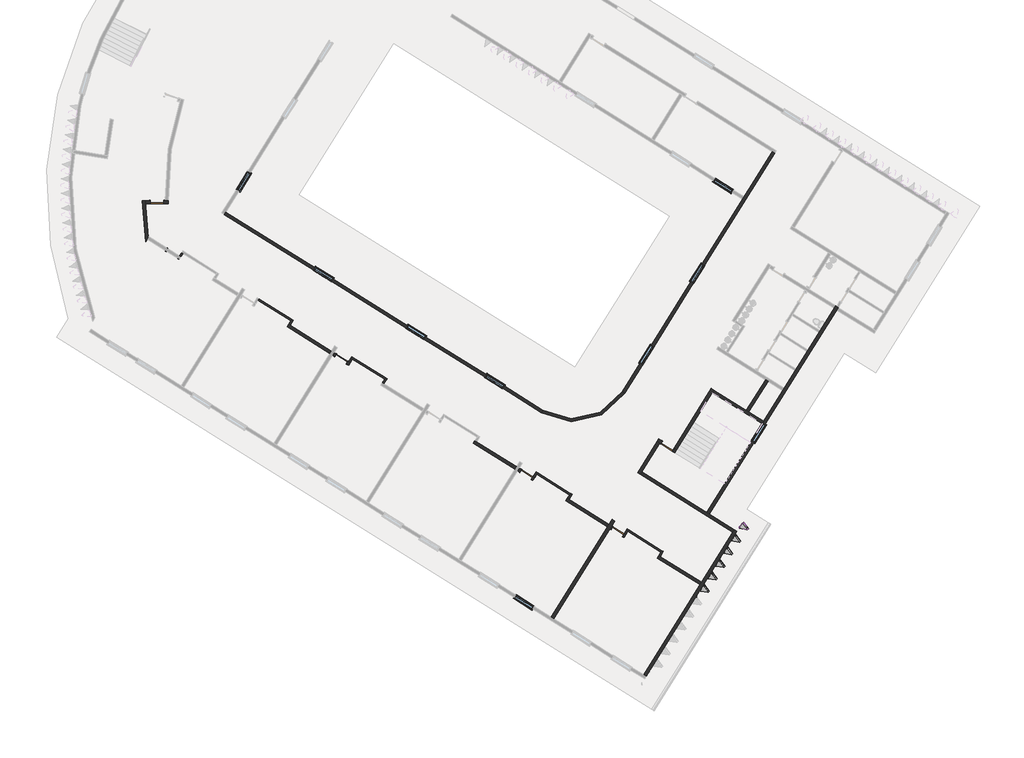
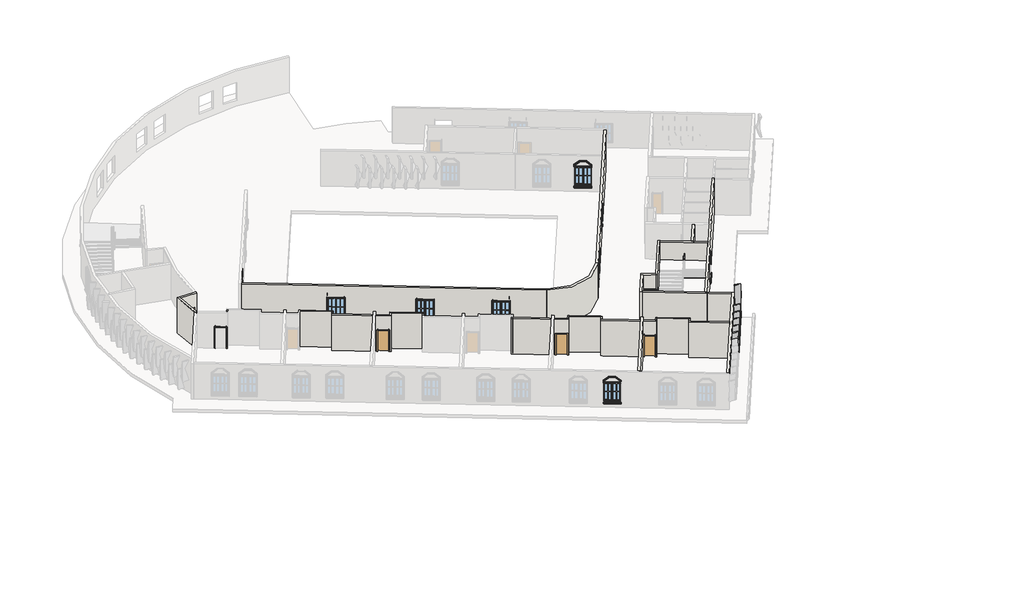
# One storey, part 2 of 7: 30 walls, 12 plates, 9 windows, 6 doors.
"""IFC4 building model written with IfcOpenShell, lengths in millimetres."""

from ifc_helpers import new_model, si_unit, point, frame, frame_2d, origin, place, context, project, spatial, polyline, circle_curve, trimmed, segment, composite_curve, outline, extrude, faceted_brep, transform, mapped, element, save
from ifc_brep_helpers import plane_surface, cylinder_surface, revolved_surface, advanced_brep
from components import m_single_flush_0915_x_2134mm_6a9e8738, m_single_flush_0915_x_2134mm_727434cd, plate_91021fb5, m_window_casement_double_1400_x_1800mm_877d247a, m_window_casement_double_1400_x_1800mm_eb8f2d9a

model = new_model("IFC4")

# Units and contexts
model_context = context("Model", 3, world=origin())
ifc_project = project(units=[si_unit("LENGTHUNIT", "METRE", prefix="MILLI")], contexts=[model_context])

# Site, building, storey
site = spatial("IfcSite", under=ifc_project)
building = spatial("IfcBuilding", under=site)
storey = spatial("IfcBuildingStorey", under=building, Name="\u200fطبقه اول", Elevation=3600.0)

# Doors
placement = place(None, origin())
m_single_flush_0915_x_2134mm_shape = m_single_flush_0915_x_2134mm_6a9e8738(model_context)
element("IfcDoor", 1, ObjectType="M_Single-Flush : 0915 x 2134mm", at=placement, inside=storey, context=model_context, shape_type="MappedRepresentation", body=[
    mapped(m_single_flush_0915_x_2134mm_shape, transform((10135.2196896, -38759.2584102, 3600.0), x_axis=(0.8480480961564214, -0.5299192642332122, 0.0), y_axis=(0.5299192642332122, 0.8480480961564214, 0.0), z_axis=(0.0, 0.0, 1.0))),
])
element("IfcDoor", 2, ObjectType="M_Single-Flush : 0915 x 2134mm", at=placement, inside=storey, context=model_context, shape_type="MappedRepresentation", body=[
    mapped(m_single_flush_0915_x_2134mm_shape, transform((9053.2639428, -35261.0209227, 3600.0), x_axis=(-1.0, 0.0, 0.0), y_axis=(0.0, -1.0, 0.0), z_axis=(0.0, 0.0, 1.0))),
])
element("IfcDoor", 3, ObjectType="M_Single-Flush : 0915 x 2134mm", at=placement, inside=storey, context=model_context, shape_type="MappedRepresentation", body=[
    mapped(m_single_flush_0915_x_2134mm_shape, transform((43670.1080734, -51814.6724607, 3600.0), x_axis=(-0.8480480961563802, 0.5299192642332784, 0.0), y_axis=(-0.5299192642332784, -0.8480480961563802, 0.0), z_axis=(0.0, 0.0, 1.0))),
])
m_single_flush_0915_x_2134mm_2_shape = m_single_flush_0915_x_2134mm_727434cd(model_context)
element("IfcDoor", 4, ObjectType="M_Single-Flush : 0915 x 2134mm", at=placement, inside=storey, context=model_context, shape_type="MappedRepresentation", body=[
    mapped(m_single_flush_0915_x_2134mm_2_shape, transform((34111.4094095, -53741.2445417, 3600.0), x_axis=(-0.8480480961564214, 0.5299192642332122, 0.0), y_axis=(-0.5299192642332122, -0.8480480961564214, 0.0), z_axis=(0.0, 0.0, 1.0))),
])
element("IfcDoor", 5, ObjectType="M_Single-Flush : 0915 x 2134mm", at=placement, inside=storey, context=model_context, shape_type="MappedRepresentation", body=[
    mapped(m_single_flush_0915_x_2134mm_2_shape, transform((40302.1605114, -57609.6551706, 3600.0), x_axis=(-0.8480480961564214, 0.5299192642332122, 0.0), y_axis=(-0.5299192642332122, -0.8480480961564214, 0.0), z_axis=(0.0, 0.0, 1.0))),
])
element("IfcDoor", 6, ObjectType="M_Single-Flush : 0915 x 2134mm", at=placement, inside=storey, context=model_context, shape_type="MappedRepresentation", body=[
    mapped(m_single_flush_0915_x_2134mm_2_shape, transform((21561.1176268, -45898.9518492, 3600.0), x_axis=(-0.8480480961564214, 0.5299192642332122, 0.0), y_axis=(-0.5299192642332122, -0.8480480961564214, 0.0), z_axis=(0.0, 0.0, 1.0))),
])

# Plates
plate_shape = plate_91021fb5(model_context)
element("IfcPlate", 7, ObjectType="مدل پارامتریک کصینوس دار : مدل پارامتریک کصینوس دار", at=placement, inside=storey, context=model_context, shape_type="MappedRepresentation", body=[
    mapped(plate_shape, transform((45098.3502083, -63847.1990302, 1755.2367897), x_axis=(0.0, 0.0, 1.0), y_axis=(0.5299192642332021, 0.8480480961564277, 0.0), z_axis=(-0.8480480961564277, 0.5299192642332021, 0.0))),
])
element("IfcPlate", 8, ObjectType="مدل پارامتریک کصینوس دار : مدل پارامتریک کصینوس دار", at=placement, inside=storey, context=model_context, shape_type="MappedRepresentation", body=[
    mapped(plate_shape, transform((45363.3098404, -63423.1749822, 755.2367897), x_axis=(0.0, 0.0, 1.0), y_axis=(0.5299192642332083, 0.8480480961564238, 0.0), z_axis=(-0.8480480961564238, 0.5299192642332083, 0.0))),
])
element("IfcPlate", 9, ObjectType="مدل پارامتریک کصینوس دار : مدل پارامتریک کصینوس دار", at=placement, inside=storey, context=model_context, shape_type="MappedRepresentation", body=[
    mapped(plate_shape, transform((45628.2694725, -62999.1509341, 1755.2367897), x_axis=(0.0, 0.0, 1.0), y_axis=(0.5299192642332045, 0.8480480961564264, 0.0), z_axis=(-0.8480480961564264, 0.5299192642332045, 0.0))),
])
element("IfcPlate", 10, ObjectType="مدل پارامتریک کصینوس دار : مدل پارامتریک کصینوس دار", at=placement, inside=storey, context=model_context, shape_type="MappedRepresentation", body=[
    mapped(plate_shape, transform((45893.2291046, -62575.126886, 755.2367897), x_axis=(0.0, 0.0, 1.0), y_axis=(0.5299192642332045, 0.8480480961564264, 0.0), z_axis=(-0.8480480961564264, 0.5299192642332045, 0.0))),
])
element("IfcPlate", 11, ObjectType="مدل پارامتریک کصینوس دار : مدل پارامتریک کصینوس دار", at=placement, inside=storey, context=model_context, shape_type="MappedRepresentation", body=[
    mapped(plate_shape, transform((46158.1887368, -62151.1028379, 1755.2367897), x_axis=(0.0, 0.0, 1.0), y_axis=(0.5299192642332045, 0.8480480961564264, 0.0), z_axis=(-0.8480480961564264, 0.5299192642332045, 0.0))),
])
element("IfcPlate", 12, ObjectType="مدل پارامتریک کصینوس دار : مدل پارامتریک کصینوس دار", at=placement, inside=storey, context=model_context, shape_type="MappedRepresentation", body=[
    mapped(plate_shape, transform((46423.1483689, -61727.0787898, 755.2367897), x_axis=(0.0, 0.0, 1.0), y_axis=(0.5299192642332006, 0.8480480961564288, 0.0), z_axis=(-0.8480480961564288, 0.5299192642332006, 0.0))),
])
element("IfcPlate", 13, ObjectType="مدل پارامتریک کصینوس دار : مدل پارامتریک کصینوس دار", at=placement, inside=storey, context=model_context, shape_type="MappedRepresentation", body=[
    mapped(plate_shape, transform((46688.108001, -61303.0547418, 1755.2367897), x_axis=(0.0, 0.0, 1.0), y_axis=(0.5299192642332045, 0.8480480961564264, 0.0), z_axis=(-0.8480480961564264, 0.5299192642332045, 0.0))),
])
element("IfcPlate", 14, ObjectType="مدل پارامتریک کصینوس دار : مدل پارامتریک کصینوس دار", at=placement, inside=storey, context=model_context, shape_type="MappedRepresentation", body=[
    mapped(plate_shape, transform((46953.0676331, -60879.0306937, 755.2367897), x_axis=(0.0, 0.0, 1.0), y_axis=(0.5299192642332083, 0.8480480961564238, 0.0), z_axis=(-0.8480480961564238, 0.5299192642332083, 0.0))),
])
element("IfcPlate", 15, ObjectType="مدل پارامتریک کصینوس دار : مدل پارامتریک کصینوس دار", at=placement, inside=storey, context=model_context, shape_type="MappedRepresentation", body=[
    mapped(plate_shape, transform((47218.0272652, -60455.0066456, 1755.2367897), x_axis=(0.0, 0.0, 1.0), y_axis=(0.5299192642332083, 0.8480480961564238, 0.0), z_axis=(-0.8480480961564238, 0.5299192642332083, 0.0))),
])
element("IfcPlate", 16, ObjectType="مدل پارامتریک کصینوس دار : مدل پارامتریک کصینوس دار", at=placement, inside=storey, context=model_context, shape_type="MappedRepresentation", body=[
    mapped(plate_shape, transform((47482.9868973, -60030.9825975, 755.2367897), x_axis=(0.0, 0.0, 1.0), y_axis=(0.5299192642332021, 0.8480480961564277, 0.0), z_axis=(-0.8480480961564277, 0.5299192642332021, 0.0))),
])
element("IfcPlate", 17, ObjectType="مدل پارامتریک کصینوس دار : مدل پارامتریک کصینوس دار", at=placement, inside=storey, context=model_context, shape_type="MappedRepresentation", body=[
    mapped(plate_shape, transform((48012.9061616, -59182.9345014, 755.2367897), x_axis=(0.0, 0.0, 1.0), y_axis=(0.529919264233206, 0.8480480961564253, 0.0), z_axis=(-0.8480480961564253, 0.529919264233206, 0.0))),
])
element("IfcPlate", 18, ObjectType="مدل پارامتریک کصینوس دار : مدل پارامتریک کصینوس دار", at=placement, inside=storey, context=model_context, shape_type="MappedRepresentation", body=[
    mapped(plate_shape, transform((48012.9061616, -59182.9345014, 2755.2367897), x_axis=(0.0, 0.0, 1.0), y_axis=(0.5299192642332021, 0.8480480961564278, 0.0), z_axis=(-0.8480480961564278, 0.5299192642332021, 0.0))),
])

# Walls
element("IfcWall", 19, ObjectType="Generic - 200mm", at=placement, inside=storey, context=model_context, shape_type="AdvancedBrep", body=[
    advanced_brep(
    [(8461.2110478, -37692.4043817, 7200.0), (8445.8385172, -37585.6864525, 7200.0), (8250.8527294, -35361.0398638, 7200.0), (8244.9320284, -35161.0209227, 7200.0), (8044.8709061, -35161.0209227, 7200.0), (8252.7688162, -37648.5519238, 7200.0), (8298.5516912, -37952.7137665, 7200.0), (8398.8638738, -37792.1807172, 7200.0), (8461.2110478, -37692.4043817, 3600.0), (8398.8638738, -37792.1807172, 3600.0), (8298.5516912, -37952.7137665, 3600.0), (8252.7688162, -37648.5519238, 3600.0), (8044.8709061, -35161.0209227, 3600.0), (8244.9320284, -35161.0209227, 3600.0), (8250.8527294, -35361.0398638, 3600.0), (8445.8385172, -37585.6864525, 3600.0)],
    [
        (0, 1, circle_curve(frame((29284.4488792, -34638.3554793, 7200.0), z_axis=(0.0, 0.0, -1.0), x_axis=(1.0, 0.0, 0.0)), 21046.0078989)),
        (1, 2, circle_curve(frame((29284.4488792, -34638.3554793, 7200.0), z_axis=(0.0, 0.0, -1.0), x_axis=(1.0, 0.0, 0.0)), 21046.0077374)),
        (2, 3, circle_curve(frame((29284.4488792, -34638.3554793, 7200.0), z_axis=(0.0, 0.0, -1.0), x_axis=(1.0, 0.0, 0.0)), 21046.0076905)),
        (3, 4),
        (4, 5, circle_curve(frame((29284.4488792, -34638.3554793, 7200.0), z_axis=(0.0, 0.0, 1.0), x_axis=(1.0, 0.0, 0.0)), 21246.0078989)),
        (5, 6, circle_curve(frame((29284.4488792, -34638.3554793, 7200.0), z_axis=(0.0, 0.0, 1.0), x_axis=(1.0, 0.0, 0.0)), 21246.0078345)),
        (6, 7),
        (7, 0),
        (8, 9),
        (9, 10),
        (10, 11, circle_curve(frame((29284.4488792, -34638.3554793, 3600.0), z_axis=(0.0, 0.0, -1.0), x_axis=(1.0, 0.0, 0.0)), 21246.0078989)),
        (11, 12, circle_curve(frame((29284.4488792, -34638.3554793, 3600.0), z_axis=(0.0, 0.0, -1.0), x_axis=(1.0, 0.0, 0.0)), 21246.0078345)),
        (12, 13),
        (13, 14, circle_curve(frame((29284.4488792, -34638.3554793, 3600.0), z_axis=(0.0, 0.0, 1.0), x_axis=(1.0, 0.0, 0.0)), 21046.0078989)),
        (14, 15, circle_curve(frame((29284.4488792, -34638.3554793, 3600.0), z_axis=(0.0, 0.0, 1.0), x_axis=(1.0, 0.0, 0.0)), 21046.0076905)),
        (15, 8, circle_curve(frame((29284.4488792, -34638.3554793, 3600.0), z_axis=(0.0, 0.0, 1.0), x_axis=(1.0, 0.0, 0.0)), 21046.0077374)),
        (0, 8),
        (13, 3),
        (4, 12),
        (10, 6),
    ],
    [
        plane_surface(frame((50330.456778, -34638.3554793, 7200.0), z_axis=(0.0, 0.0, 1.0), x_axis=(0.0, -1.0, 0.0))),
        plane_surface(frame((50330.456778, -34638.3554793, 3600.0), z_axis=(0.0, 0.0, -1.0), x_axis=(0.0, 1.0, 0.0))),
        revolved_surface(polyline([(50330.4567781, -34638.3554793, 3600.0), (50330.4567781, -34638.3554793, 7200.0)]), (29284.4488792, -34638.3554793, 3600.0), (0.0, 0.0, -1.0)),
        cylinder_surface(frame((29284.4488792, -34638.3554793, 3600.0), z_axis=(0.0, 0.0, 1.0), x_axis=(1.0, 0.0, 0.0)), 21246.0078989),
        plane_surface(frame((8250.8518702, -35161.0209227, 3600.0), z_axis=(0.0, 1.0, 0.0), x_axis=(-1.0, 0.0, 0.0))),
        plane_surface(frame((4583.4451713, -43898.1270095, 3600.0), z_axis=(0.8480480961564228, -0.5299192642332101, 0.0), x_axis=(0.5299192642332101, 0.8480480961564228, 0.0))),
    ],
    [
        (0, [[1, 2, 3, 4, 5, 6, 7, 8]]),
        (1, [[9, 10, 11, 12, 13, 14, 15, 16]]),
        (2, [[-3, -2, -1, 17, -16, -15, -14, 18]]),
        (3, [[-6, -5, 19, -12, -11, 20]]),
        (4, [[-4, -18, -13, -19]]),
        (5, [[-8, -7, -20, -10, -9, -17]]),
    ],
),
])
element("IfcWall", 20, ObjectType="Generic - 200mm", at=placement, inside=storey, context=model_context, shape_type="AdvancedBrep", body=[
    advanced_brep(
    [(8250.8518702, -35361.0209227, 3600.0), (8595.7639428, -35361.0209227, 3600.0), (8595.7639428, -35361.0209227, 5734.0), (9510.7639428, -35361.0209227, 5734.0), (9510.7639428, -35361.0209227, 3600.0), (9814.2693312, -35361.0209227, 3600.0), (9814.2693312, -35361.0209227, 7200.0), (8250.8518702, -35361.0209227, 7200.0), (8595.7639428, -35161.0209227, 5734.0), (8595.7639428, -35161.0209227, 3600.0), (8244.9320284, -35161.0209227, 3600.0), (8244.9320284, -35161.0209227, 7200.0), (9607.803018, -35161.0209227, 7200.0), (9807.874288, -35161.0209227, 7200.0), (9807.874288, -35161.0209227, 3600.0), (9607.803018, -35161.0209227, 3600.0), (9510.7639428, -35161.0209227, 3600.0), (9510.7639428, -35161.0209227, 5734.0)],
    [
        (0, 1),
        (1, 2),
        (2, 3),
        (3, 4),
        (4, 5),
        (5, 6),
        (6, 7),
        (7, 0),
        (8, 9),
        (9, 10),
        (10, 11),
        (11, 12),
        (12, 13),
        (13, 14),
        (14, 15),
        (15, 16),
        (16, 17),
        (17, 8),
        (9, 1),
        (0, 10, circle_curve(frame((29284.4488792, -34638.3554793, 3600.0), z_axis=(0.0, 0.0, -1.0), x_axis=(1.0, 0.0, 0.0)), 21046.0078989)),
        (14, 5, circle_curve(frame((29284.4488792, -34638.3554793, 3600.0), z_axis=(0.0, 0.0, 1.0), x_axis=(1.0, 0.0, 0.0)), 19483.5863478)),
        (4, 16),
        (6, 13, circle_curve(frame((29284.4488792, -34638.3554793, 7200.0), z_axis=(0.0, 0.0, -1.0), x_axis=(1.0, 0.0, 0.0)), 19483.5863478)),
        (11, 7, circle_curve(frame((29284.4488792, -34638.3554793, 7200.0), z_axis=(0.0, 0.0, 1.0), x_axis=(1.0, 0.0, 0.0)), 21046.0078989)),
        (8, 2),
        (17, 3),
    ],
    [
        plane_surface(frame((8250.8518702, -35361.0209227, 3600.0), z_axis=(0.0, -1.0, 0.0), x_axis=(1.0, 0.0, 0.0))),
        plane_surface(frame((8250.8518702, -35161.0209227, 3600.0), z_axis=(0.0, 1.0, 0.0), x_axis=(-1.0, 0.0, 0.0))),
        plane_surface(frame((8147.6104731, -35361.0209227, 3600.0), z_axis=(0.0, 0.0, -1.0), x_axis=(0.0, 1.0, 0.0))),
        plane_surface(frame((9710.7639428, -35361.0209227, 7200.0), z_axis=(0.0, 0.0, 1.0), x_axis=(0.0, 1.0, 0.0))),
        revolved_surface(polyline([(48768.035227, -34638.3554793, 3600.0), (48768.035227, -34638.3554793, 7200.0)]), (29284.4488792, -34638.3554793, 3600.0), (0.0, 0.0, -1.0)),
        cylinder_surface(frame((29284.4488792, -34638.3554793, 3600.0), z_axis=(0.0, 0.0, -1.0), x_axis=(1.0, 0.0, 0.0)), 21046.0078989),
        plane_surface(frame((8595.7639428, -35361.0209227, 3600.0), z_axis=(1.0, 0.0, 0.0), x_axis=(0.0, 1.0, 0.0))),
        plane_surface(frame((8595.7639428, -35361.0209227, 5734.0), z_axis=(0.0, 0.0, -1.0), x_axis=(0.0, 1.0, 0.0))),
        plane_surface(frame((9510.7639428, -35361.0209227, 5734.0), z_axis=(-1.0, 0.0, 0.0), x_axis=(0.0, 1.0, 0.0))),
    ],
    [
        (0, [[1, 2, 3, 4, 5, 6, 7, 8]]),
        (1, [[9, 10, 11, 12, 13, 14, 15, 16, 17, 18]]),
        (2, [[-10, 19, -1, 20]]),
        (2, [[-16, -15, 21, -5, 22]]),
        (3, [[-7, 23, -13, -12, 24]]),
        (4, [[-6, -21, -14, -23]]),
        (5, [[-8, -24, -11, -20]]),
        (6, [[-2, -19, -9, 25]]),
        (7, [[-3, -25, -18, 26]]),
        (8, [[-4, -26, -17, -22]]),
    ],
),
])
element("IfcWall", 21, ObjectType="Generic - 200mm", at=placement, inside=storey, context=model_context, shape_type="SweptSolid", body=[
    extrude(outline(polyline([(35791.6151098, -63399.1559333), (39924.9853708, -56784.3807832), (40094.5949901, -56890.3646361), (35961.2247291, -63505.1397861), (35791.6151098, -63399.1559333)])), frame((0.0, 0.0, 3600.0), z_axis=(0.0, 0.0, 1.0), x_axis=(1.0, 0.0, 0.0)), (0.0, 0.0, 1.0), 3600.0),
])
element("IfcWall", 22, ObjectType="Generic - 200mm", at=placement, inside=storey, context=model_context, shape_type="Brep", body=[
    faceted_brep([(42236.7806406, -67426.5423414, 3600.0), (48383.4012778, -57589.8930988, 3600.0), (48383.4012778, -57589.8930988, 7200.0), (42236.7806406, -67426.5423414, 7200.0), (42067.1710214, -67320.5584886, 3600.0), (42067.1710214, -67320.5584886, 7200.0), (45882.5897239, -61214.6121963, 7200.0), (45988.5735767, -61045.002577, 7200.0), (48107.8078058, -57653.5188652, 7200.0), (48213.7916586, -57483.9092459, 7200.0), (48213.7916586, -57483.9092459, 3600.0), (48107.8078058, -57653.5188652, 3600.0), (45988.5735767, -61045.002577, 3600.0), (45882.5897239, -61214.6121963, 3600.0)], [[[0, 1, 2, 3]], [[4, 5, 6, 7, 8, 9, 10, 11, 12, 13]], [[1, 0, 4, 13, 12, 11, 10]], [[3, 2, 9, 8, 7, 6, 5]], [[2, 1, 10, 9]], [[0, 3, 5, 4]]]),
])
element("IfcWall", 23, ObjectType="Generic - 200mm", at=placement, inside=storey, context=model_context, shape_type="Brep", body=[
    faceted_brep([(41818.4737323, -53723.5067587, 3600.0), (48107.8078058, -57653.5188652, 3600.0), (48107.8078058, -57653.5188652, 7200.0), (41818.4737323, -53723.5067587, 7200.0), (41924.4575852, -53553.8971395, 3600.0), (41924.4575852, -53553.8971395, 7200.0), (46334.3076852, -56309.4773135, 7200.0), (46503.9173044, -56415.4611664, 7200.0), (48213.7916586, -57483.9092459, 7200.0), (48213.7916586, -57483.9092459, 3600.0), (46503.9173044, -56415.4611664, 3600.0), (46334.3076852, -56309.4773135, 3600.0)], [[[0, 1, 2, 3]], [[4, 5, 6, 7, 8, 9, 10, 11]], [[1, 0, 4, 11, 10, 9]], [[3, 2, 8, 7, 6, 5]], [[2, 1, 9, 8]], [[0, 3, 5, 4]]]),
])
element("IfcWall", 24, ObjectType="Generic - 200mm", at=placement, inside=storey, context=model_context, shape_type="Brep", body=[
    faceted_brep([(46503.9173044, -56415.4611664, 3600.0), (55149.463009, -42579.6958529, 3600.0), (55255.4468618, -42410.0862337, 3600.0), (55255.4468618, -42410.0862337, 7200.0), (55149.463009, -42579.6958529, 7200.0), (46503.9173044, -56415.4611664, 7200.0), (49547.1565475, -51545.2603255, 4200.0), (49547.1565475, -51545.2603255, 6000.0), (50289.0435174, -50357.9929909, 6000.0), (50289.0435174, -50357.9929909, 4200.0), (55085.8372426, -42304.1023809, 3600.0), (54979.8533898, -42473.7120001, 3600.0), (54025.9987141, -44000.1985732, 3600.0), (53960.2887254, -44105.3565371, 3600.0), (53218.4017555, -45292.6238717, 3600.0), (53152.6917667, -45397.7818356, 3600.0), (52410.8047968, -46585.0491702, 3600.0), (52345.094808, -46690.2071342, 3600.0), (51603.2078381, -47877.4744688, 3600.0), (51497.2239852, -48047.084088, 3600.0), (50202.7183141, -50118.7262116, 3600.0), (50096.7344612, -50288.3358308, 3600.0), (46334.3076852, -56309.4773135, 3600.0), (46334.3076852, -56309.4773135, 7200.0), (50096.7344612, -50288.3358308, 7200.0), (50202.7183141, -50118.7262116, 7200.0), (51497.2239852, -48047.084088, 7200.0), (51603.2078381, -47877.4744688, 7200.0), (52345.094808, -46690.2071342, 7200.0), (52410.8047968, -46585.0491702, 7200.0), (53152.6917667, -45397.7818356, 7200.0), (53218.4017555, -45292.6238717, 7200.0), (53960.2887254, -44105.3565371, 7200.0), (54025.9987141, -44000.1985732, 7200.0), (54979.8533898, -42473.7120001, 7200.0), (55085.8372426, -42304.1023809, 7200.0), (49377.5469283, -51439.2764726, 6000.0), (49377.5469283, -51439.2764726, 4200.0), (50119.4338982, -50252.009138, 4200.0), (50119.4338982, -50252.009138, 6000.0), (55150.2888979, -42344.3762449, 3600.0), (55150.2888979, -42344.3762449, 7200.0)], [[[0, 1, 2, 3, 4, 5], [6, 7, 8, 9]], [[10, 11, 12, 13, 14, 15, 16, 17, 18, 19, 20, 21, 22, 23, 24, 25, 26, 27, 28, 29, 30, 31, 32, 33, 34, 35], [36, 37, 38, 39]], [[2, 1, 0, 22, 21, 20, 19, 18, 17, 16, 15, 14, 13, 12, 11, 10, 40]], [[5, 4, 3, 41, 35, 34, 33, 32, 31, 30, 29, 28, 27, 26, 25, 24, 23]], [[0, 5, 23, 22]], [[3, 2, 40, 10, 35, 41]], [[37, 36, 7, 6]], [[38, 37, 6, 9]], [[39, 38, 9, 8]], [[36, 39, 8, 7]]]),
])
element("IfcWall", 25, ObjectType="Generic - 200mm", at=placement, inside=storey, context=model_context, shape_type="Brep", body=[
    faceted_brep([(42973.6622737, -51497.4026655, 3600.0), (41648.8641131, -53617.5229059, 3600.0), (41648.8641131, -53617.5229059, 7200.0), (42973.6622737, -51497.4026655, 7200.0), (43143.2718929, -51603.3865184, 3600.0), (43143.2718929, -51603.3865184, 7200.0), (41924.4575852, -53553.8971395, 7200.0), (41818.4737323, -53723.5067587, 7200.0), (41818.4737323, -53723.5067587, 3600.0), (41924.4575852, -53553.8971395, 3600.0)], [[[0, 1, 2, 3]], [[4, 5, 6, 7, 8, 9]], [[1, 0, 4, 9, 8]], [[3, 2, 7, 6, 5]], [[0, 3, 5, 4]], [[2, 1, 8, 7]]]),
])
element("IfcWall", 26, ObjectType="Generic - 200mm", at=placement, inside=storey, context=model_context, shape_type="Brep", body=[
    faceted_brep([(44005.0981509, -52141.9153337, 7200.0), (43143.2718929, -51603.3865184, 7200.0), (42973.6622737, -51497.4026655, 7200.0), (42973.6622737, -51497.4026655, 3600.0), (43143.2718929, -51603.3865184, 3600.0), (43229.134143, -51657.0392069, 3600.0), (43229.134143, -51657.0392069, 5734.0), (44005.0981509, -52141.9153337, 5734.0), (43079.6461265, -51327.7930463, 7200.0), (44111.0820038, -51972.3057144, 7200.0), (44111.0820038, -51972.3057144, 5734.0), (43335.1179958, -51487.4295877, 5734.0), (43335.1179958, -51487.4295877, 3600.0), (43079.6461265, -51327.7930463, 3600.0)], [[[0, 1, 2, 3, 4, 5, 6, 7]], [[8, 9, 10, 11, 12, 13]], [[3, 13, 12, 5, 4]], [[2, 1, 0, 9, 8]], [[3, 2, 8, 13]], [[9, 0, 7, 10]], [[11, 6, 5, 12]], [[6, 11, 10, 7]]]),
])
element("IfcWall", 27, ObjectType="Generic - 200mm", at=placement, inside=storey, context=model_context, shape_type="Brep", body=[
    faceted_brep([(44005.0981509, -52141.9153337, 7200.0), (44111.0820038, -51972.3057144, 7200.0), (46654.6944721, -47901.6748529, 7200.0), (46654.6944721, -47901.6748529, 3600.0), (44111.0820038, -51972.3057144, 3600.0), (44005.0981509, -52141.9153337, 3600.0), (44005.0981509, -52141.9153337, 5734.0), (44174.7077702, -52247.8991865, 3600.0), (46718.3202385, -48177.268325, 3600.0), (46824.3040913, -48007.6587057, 3600.0), (46824.3040913, -48007.6587057, 7200.0), (46718.3202385, -48177.268325, 7200.0), (44174.7077702, -52247.8991865, 7200.0)], [[[0, 1, 2, 3, 4, 5, 6]], [[7, 8, 9, 10, 11, 12]], [[9, 8, 7, 5, 4, 3]], [[2, 1, 0, 12, 11, 10]], [[5, 7, 12, 0, 6]], [[3, 2, 10, 9]]]),
])
element("IfcWall", 28, ObjectType="Generic - 200mm", at=placement, inside=storey, context=model_context, shape_type="Brep", body=[
    faceted_brep([(46718.3202385, -48177.268325, 3600.0), (50096.7344612, -50288.3358308, 3600.0), (50096.7344612, -50288.3358308, 7200.0), (46718.3202385, -48177.268325, 7200.0), (46824.3040913, -48007.6587057, 3600.0), (46824.3040913, -48007.6587057, 7200.0), (49029.2291413, -49385.4487928, 7200.0), (49198.8387606, -49491.4326456, 7200.0), (50202.7183141, -50118.7262116, 7200.0), (50202.7183141, -50118.7262116, 3600.0), (49198.8387606, -49491.4326456, 3600.0), (49029.2291413, -49385.4487928, 3600.0)], [[[0, 1, 2, 3]], [[4, 5, 6, 7, 8, 9, 10, 11]], [[1, 0, 4, 11, 10, 9]], [[3, 2, 8, 7, 6, 5]], [[2, 1, 9, 8]], [[0, 3, 5, 4]]]),
])
element("IfcWall", 29, ObjectType="Generic - 200mm", at=placement, inside=storey, context=model_context, shape_type="SweptSolid", body=[
    extrude(outline(polyline([(49029.2291413, -49385.4487928), (50323.7348125, -47313.8066692), (50493.3444317, -47419.790522), (49198.8387606, -49491.4326456), (49029.2291413, -49385.4487928)])), frame((0.0, 0.0, 3600.0), z_axis=(0.0, 0.0, 1.0), x_axis=(1.0, 0.0, 0.0)), (0.0, 0.0, 1.0), 3600.0),
])
element("IfcWall", 30, ObjectType="Generic - 200mm", at=placement, inside=storey, context=model_context, shape_type="Brep", body=[
    faceted_brep([(40771.4532208, -48228.1811064, 7200.0), (40771.4532208, -48228.1811064, 3600.0), (50950.8692502, -31937.7101491, 3600.0), (50950.8692502, -31937.7101491, 7200.0), (41990.2675285, -46277.6704852, 6000.0), (42732.1544985, -45090.4031506, 6000.0), (42732.1544985, -45090.4031506, 4200.0), (41990.2675285, -46277.6704852, 4200.0), (45439.7089022, -40757.4103491, 6000.0), (46181.5958721, -39570.1430145, 6000.0), (46181.5958721, -39570.1430145, 4200.0), (45439.7089022, -40757.4103491, 4200.0), (40601.8436016, -48122.1972535, 3600.0), (40601.8436016, -48122.1972535, 7200.0), (48767.5679632, -35054.306603, 7200.0), (48873.551816, -34884.6969838, 7200.0), (50781.259631, -31831.7262962, 7200.0), (50781.259631, -31831.7262962, 3600.0), (48873.551816, -34884.6969838, 3600.0), (48767.5679632, -35054.306603, 3600.0), (41820.6579093, -46171.6866324, 6000.0), (41820.6579093, -46171.6866324, 4200.0), (42562.5448792, -44984.4192978, 4200.0), (42562.5448792, -44984.4192978, 6000.0), (45270.0992829, -40651.4264963, 6000.0), (45270.0992829, -40651.4264963, 4200.0), (46011.9862529, -39464.1591616, 4200.0), (46011.9862529, -39464.1591616, 6000.0)], [[[0, 1, 2, 3], [4, 5, 6, 7], [8, 9, 10, 11]], [[12, 13, 14, 15, 16, 17, 18, 19], [20, 21, 22, 23], [24, 25, 26, 27]], [[2, 1, 12, 19, 18, 17]], [[0, 3, 16, 15, 14, 13]], [[3, 2, 17, 16]], [[0, 13, 12, 1]], [[21, 20, 4, 7]], [[22, 21, 7, 6]], [[23, 22, 6, 5]], [[20, 23, 5, 4]], [[25, 24, 8, 11]], [[26, 25, 11, 10]], [[27, 26, 10, 9]], [[24, 27, 9, 8]]]),
])
element("IfcWall", 31, ObjectType="Generic - 200mm", at=placement, inside=storey, context=model_context, shape_type="Brep", body=[
    faceted_brep([(13624.0006218, -36104.6573913, 3600.0), (35119.3374298, -49536.4345715, 3600.0), (35119.3374298, -49536.4345715, 4400.0), (35119.3374298, -49536.4345715, 7200.0), (13624.0006218, -36104.6573913, 7200.0), (19684.8620797, -39891.9039625, 6000.0), (20872.1294143, -40633.7909324, 6000.0), (20872.1294143, -40633.7909324, 4200.0), (19684.8620797, -39891.9039625, 4200.0), (25960.4179913, -43813.3065178, 6000.0), (27147.6853259, -44555.1934878, 6000.0), (27147.6853259, -44555.1934878, 4200.0), (25960.4179913, -43813.3065178, 4200.0), (31303.1209971, -47151.7978825, 6000.0), (32490.3883317, -47893.6848524, 6000.0), (32490.3883317, -47893.6848524, 4200.0), (31303.1209971, -47151.7978825, 4200.0), (13729.9844746, -35935.047772, 3600.0), (13729.9844746, -35935.047772, 7200.0), (35225.3212826, -49366.8249523, 7200.0), (35225.3212826, -49366.8249523, 4400.0), (35225.3212826, -49366.8249523, 3600.0), (19790.8459326, -39722.2943433, 6000.0), (19790.8459326, -39722.2943433, 4200.0), (20978.1132672, -40464.1813132, 4200.0), (20978.1132672, -40464.1813132, 6000.0), (26066.4018441, -43643.6968986, 6000.0), (26066.4018441, -43643.6968986, 4200.0), (27253.6691787, -44385.5838685, 4200.0), (27253.6691787, -44385.5838685, 6000.0), (31409.1048499, -46982.1882633, 6000.0), (31409.1048499, -46982.1882633, 4200.0), (32596.3721845, -47724.0752332, 4200.0), (32596.3721845, -47724.0752332, 6000.0)], [[[0, 1, 2, 3, 4], [5, 6, 7, 8], [9, 10, 11, 12], [13, 14, 15, 16]], [[17, 18, 19, 20, 21], [22, 23, 24, 25], [26, 27, 28, 29], [30, 31, 32, 33]], [[1, 0, 17, 21]], [[4, 3, 19, 18]], [[0, 4, 18, 17]], [[1, 21, 20, 19, 3, 2]], [[23, 22, 5, 8]], [[24, 23, 8, 7]], [[25, 24, 7, 6]], [[22, 25, 6, 5]], [[27, 26, 9, 12]], [[28, 27, 12, 11]], [[29, 28, 11, 10]], [[26, 29, 10, 9]], [[31, 30, 13, 16]], [[32, 31, 16, 15]], [[33, 32, 15, 14]], [[30, 33, 14, 13]]]),
])
element("IfcWall", 32, ObjectType="Generic - 200mm", at=placement, inside=storey, context=model_context, shape_type="Brep", body=[
    faceted_brep([(17877.2357844, -43714.9248301, 3600.0), (21120.1436964, -45741.3185954, 3600.0), (21120.1436964, -45741.3185954, 5734.0), (21896.1077044, -46226.1947222, 5734.0), (21896.1077044, -46226.1947222, 3600.0), (22052.1485541, -46323.6998668, 3600.0), (22052.1485541, -46323.6998668, 7200.0), (17877.2357844, -43714.9248301, 7200.0), (21226.1275492, -45571.7089762, 5734.0), (21226.1275492, -45571.7089762, 3600.0), (18088.3776011, -43611.0251996, 3600.0), (17983.2196372, -43545.3152109, 3600.0), (17983.2196372, -43545.3152109, 7200.0), (18088.3776011, -43611.0251996, 7200.0), (22052.974443, -46088.3802588, 7200.0), (22158.1324069, -46154.0902475, 7200.0), (22158.1324069, -46154.0902475, 3600.0), (22052.974443, -46088.3802588, 3600.0), (22002.0915572, -46056.5851029, 3600.0), (22002.0915572, -46056.5851029, 5734.0)], [[[0, 1, 2, 3, 4, 5, 6, 7]], [[8, 9, 10, 11, 12, 13, 14, 15, 16, 17, 18, 19]], [[11, 10, 9, 1, 0]], [[18, 17, 16, 5, 4]], [[7, 6, 15, 14, 13, 12]], [[6, 5, 16, 15]], [[0, 7, 12, 11]], [[2, 1, 9, 8]], [[3, 2, 8, 19]], [[4, 3, 19, 18]]]),
])
element("IfcWall", 33, ObjectType="Generic - 200mm", at=placement, inside=storey, context=model_context, shape_type="Brep", body=[
    faceted_brep([(30513.1524171, -51610.7218672, 3600.0), (33670.4354791, -53583.6112879, 3600.0), (33670.4354791, -53583.6112879, 5734.0), (34446.3994871, -54068.4874147, 5734.0), (34446.3994871, -54068.4874147, 3600.0), (34551.557451, -54134.1974035, 3600.0), (34551.557451, -54134.1974035, 7200.0), (30513.1524171, -51610.7218672, 7200.0), (33776.4193319, -53414.0016687, 5734.0), (33776.4193319, -53414.0016687, 3600.0), (30724.2942339, -51506.8222367, 3600.0), (30619.1362699, -51441.1122479, 3600.0), (30619.1362699, -51441.1122479, 7200.0), (30724.2942339, -51506.8222367, 7200.0), (34552.3833399, -53898.8777955, 7200.0), (34657.5413038, -53964.5877842, 7200.0), (34657.5413038, -53964.5877842, 3600.0), (34552.3833399, -53898.8777955, 3600.0), (34552.3833399, -53898.8777955, 5734.0)], [[[0, 1, 2, 3, 4, 5, 6, 7]], [[8, 9, 10, 11, 12, 13, 14, 15, 16, 17, 18]], [[11, 10, 9, 1, 0]], [[17, 16, 5, 4]], [[7, 6, 15, 14, 13, 12]], [[6, 5, 16, 15]], [[0, 7, 12, 11]], [[2, 1, 9, 8]], [[3, 2, 8, 18]], [[4, 3, 18, 17]]]),
])
element("IfcWall", 34, ObjectType="Generic - 200mm", at=placement, inside=storey, context=model_context, shape_type="Brep", body=[
    faceted_brep([(36788.7083286, -55532.1244225, 3600.0), (39861.186581, -57452.0219168, 3600.0), (39861.186581, -57452.0219168, 5734.0), (40637.150589, -57936.8980436, 5734.0), (40637.150589, -57936.8980436, 3600.0), (40742.3085529, -58002.6080324, 3600.0), (40742.3085529, -58002.6080324, 7200.0), (36788.7083286, -55532.1244225, 7200.0), (39967.1704339, -57282.4122976, 5734.0), (39967.1704339, -57282.4122976, 3600.0), (36999.8501454, -55428.224792, 3600.0), (36894.6921815, -55362.5148033, 3600.0), (36894.6921815, -55362.5148033, 7200.0), (36999.8501454, -55428.224792, 7200.0), (40743.1344419, -57767.2884244, 7200.0), (40848.2924058, -57832.9984131, 7200.0), (40848.2924058, -57832.9984131, 3600.0), (40743.1344419, -57767.2884244, 3600.0), (40743.1344419, -57767.2884244, 5734.0)], [[[0, 1, 2, 3, 4, 5, 6, 7]], [[8, 9, 10, 11, 12, 13, 14, 15, 16, 17, 18]], [[11, 10, 9, 1, 0]], [[17, 16, 5, 4]], [[7, 6, 15, 14, 13, 12]], [[6, 5, 16, 15]], [[0, 7, 12, 11]], [[2, 1, 9, 8]], [[3, 2, 8, 18]], [[4, 3, 18, 17]]]),
])
element("IfcWall", 35, ObjectType="Generic - 200mm", at=placement, inside=storey, context=model_context, shape_type="Brep", body=[
    faceted_brep([(42979.4594306, -59400.5350514, 3600.0), (45882.5897239, -61214.6121963, 3600.0), (45882.5897239, -61214.6121963, 7200.0), (42979.4594306, -59400.5350514, 7200.0), (45988.5735767, -61045.002577, 3600.0), (43190.6012474, -59296.6354209, 3600.0), (43085.4432834, -59230.9254322, 3600.0), (43085.4432834, -59230.9254322, 7200.0), (43190.6012474, -59296.6354209, 7200.0), (45988.5735767, -61045.002577, 7200.0)], [[[0, 1, 2, 3]], [[4, 5, 6, 7, 8, 9]], [[1, 0, 6, 5, 4]], [[3, 2, 9, 8, 7]], [[2, 1, 4, 9]], [[0, 3, 7, 6]]]),
])
element("IfcWall", 36, ObjectType="Generic - 200mm", at=placement, inside=storey, context=model_context, shape_type="SweptSolid", body=[
    extrude(outline(composite_curve([segment(polyline([(40601.7823405, -48122.2954181), (40771.5144819, -48228.0829419)]), True, "CONTINUOUS"), segment(trimmed(circle_curve(frame_2d((37292.0055839, -46059.4387043)), 4100.0), [point((40771.5144819, -48228.0829419))], [point((35119.3366006, -49536.4358986))], False, "CARTESIAN"), True, "CONTINUOUS"), segment(polyline([(35119.3366006, -49536.4358986), (35225.3204534, -49366.8262793)]), True, "CONTINUOUS"), segment(trimmed(circle_curve(frame_2d((37292.0055839, -46059.4387043)), 3900.0), [point((35225.3204534, -49366.8262793))], [point((40601.7823405, -48122.2954181))], True, "CARTESIAN"), True, "CONTINUOUS")], self_intersect=False)), frame((0.0, 0.0, 3600.0), z_axis=(0.0, 0.0, 1.0), x_axis=(1.0, 0.0, 0.0)), (0.0, 0.0, 1.0), 3600.0),
])
element("IfcWall", 37, ObjectType="Interior - Blockwork 100", at=placement, inside=storey, context=model_context, shape_type="Brep", body=[
    faceted_brep([(43297.4109891, -58891.7061937, 3600.0), (43296.8603828, -58892.587348, 3600.0), (43231.1503941, -58997.7453119, 3600.0), (43085.4432834, -59230.9254322, 3600.0), (43085.4432834, -59230.9254322, 7200.0), (43231.1503941, -58997.7453119, 7200.0), (43296.8603828, -58892.587348, 7200.0), (43297.4109891, -58891.7061937, 7200.0), (43402.5689531, -58957.4161825, 3600.0), (43402.5689531, -58957.4161825, 7200.0), (43190.6012474, -59296.6354209, 7200.0), (43190.6012474, -59296.6354209, 3600.0)], [[[0, 1, 2, 3, 4, 5, 6, 7]], [[8, 9, 10, 11]], [[3, 2, 1, 0, 8, 11]], [[7, 6, 5, 4, 10, 9]], [[0, 7, 9, 8]], [[4, 3, 11, 10]]]),
])
element("IfcWall", 38, ObjectType="Interior - Blockwork 100", at=placement, inside=storey, context=model_context, shape_type="SweptSolid", body=[
    extrude(outline(polyline([(43231.1503941, -58997.7453119), (40993.9995164, -57599.8182928), (41059.7095052, -57494.6603289), (43296.8603828, -58892.587348), (43231.1503941, -58997.7453119)])), frame((0.0, 0.0, 3600.0), z_axis=(0.0, 0.0, 1.0), x_axis=(1.0, 0.0, 0.0)), (0.0, 0.0, 1.0), 3600.0),
])
element("IfcWall", 39, ObjectType="Interior - Blockwork 100", at=placement, inside=storey, context=model_context, shape_type="Brep", body=[
    faceted_brep([(40954.5515413, -57428.9503402, 3600.0), (40743.1344419, -57767.2884244, 3600.0), (40743.1344419, -57767.2884244, 7200.0), (40954.5515413, -57428.9503402, 7200.0), (41059.7095052, -57494.6603289, 3600.0), (41059.7095052, -57494.6603289, 7200.0), (40993.9995164, -57599.8182928, 7200.0), (40848.2924058, -57832.9984131, 7200.0), (40848.2924058, -57832.9984131, 3600.0), (40993.9995164, -57599.8182928, 3600.0)], [[[0, 1, 2, 3]], [[4, 5, 6, 7, 8, 9]], [[1, 0, 4, 9, 8]], [[3, 2, 7, 6, 5]], [[0, 3, 5, 4]], [[2, 1, 8, 7]]]),
])
element("IfcWall", 40, ObjectType="Interior - Blockwork 100", at=placement, inside=storey, context=model_context, shape_type="Brep", body=[
    faceted_brep([(37106.6598872, -55023.2955648, 3600.0), (37106.1092809, -55024.1767191, 3600.0), (37040.3992921, -55129.334683, 3600.0), (36894.6921815, -55362.5148033, 3600.0), (36894.6921815, -55362.5148033, 7200.0), (37040.3992921, -55129.334683, 7200.0), (37106.1092809, -55024.1767191, 7200.0), (37106.6598872, -55023.2955648, 7200.0), (37211.8178511, -55089.0055536, 3600.0), (37211.8178511, -55089.0055536, 7200.0), (36999.8501454, -55428.224792, 7200.0), (36999.8501454, -55428.224792, 3600.0)], [[[0, 1, 2, 3, 4, 5, 6, 7]], [[8, 9, 10, 11]], [[3, 2, 1, 0, 8, 11]], [[7, 6, 5, 4, 10, 9]], [[0, 7, 9, 8]], [[4, 3, 11, 10]]]),
])
element("IfcWall", 41, ObjectType="Interior - Blockwork 100", at=placement, inside=storey, context=model_context, shape_type="SweptSolid", body=[
    extrude(outline(polyline([(37040.3992921, -55129.334683), (34803.2484145, -53731.4076639), (34868.9584032, -53626.2497), (37106.1092809, -55024.1767191), (37040.3992921, -55129.334683)])), frame((0.0, 0.0, 3600.0), z_axis=(0.0, 0.0, 1.0), x_axis=(1.0, 0.0, 0.0)), (0.0, 0.0, 1.0), 3600.0),
])
element("IfcWall", 42, ObjectType="Interior - Blockwork 100", at=placement, inside=storey, context=model_context, shape_type="Brep", body=[
    faceted_brep([(34763.8004393, -53560.5397113, 3600.0), (34552.3833399, -53898.8777955, 3600.0), (34552.3833399, -53898.8777955, 7200.0), (34763.8004393, -53560.5397113, 7200.0), (34868.9584032, -53626.2497, 3600.0), (34868.9584032, -53626.2497, 7200.0), (34803.2484145, -53731.4076639, 7200.0), (34657.5413038, -53964.5877842, 7200.0), (34657.5413038, -53964.5877842, 3600.0), (34803.2484145, -53731.4076639, 3600.0)], [[[0, 1, 2, 3]], [[4, 5, 6, 7, 8, 9]], [[1, 0, 4, 9, 8]], [[3, 2, 7, 6, 5]], [[0, 3, 5, 4]], [[2, 1, 8, 7]]]),
])
element("IfcWall", 43, ObjectType="Interior - Blockwork 100", at=placement, inside=storey, context=model_context, shape_type="Brep", body=[
    faceted_brep([(24555.5480641, -47180.4904542, 3600.0), (24554.9974578, -47181.3716084, 3600.0), (24489.287469, -47286.5295723, 3600.0), (24343.5803584, -47519.7096926, 3600.0), (24343.5803584, -47519.7096926, 7200.0), (24489.287469, -47286.5295723, 7200.0), (24554.9974578, -47181.3716084, 7200.0), (24555.5480641, -47180.4904542, 7200.0), (24660.706028, -47246.2004429, 3600.0), (24660.706028, -47246.2004429, 7200.0), (24448.7383223, -47585.4196814, 7200.0), (24448.7383223, -47585.4196814, 3600.0)], [[[0, 1, 2, 3, 4, 5, 6, 7]], [[8, 9, 10, 11]], [[3, 2, 1, 0, 8, 11]], [[7, 6, 5, 4, 10, 9]], [[0, 7, 9, 8]], [[4, 3, 11, 10]]]),
])
element("IfcWall", 44, ObjectType="Interior - Blockwork 100", at=placement, inside=storey, context=model_context, shape_type="Brep", body=[
    faceted_brep([(22198.6815536, -45855.2001385, 3600.0), (22303.8395175, -45920.9101273, 3600.0), (24489.287469, -47286.5295723, 3600.0), (24489.287469, -47286.5295723, 7200.0), (22303.8395175, -45920.9101273, 7200.0), (22198.6815536, -45855.2001385, 7200.0), (22264.3915424, -45750.0421746, 3600.0), (22264.3915424, -45750.0421746, 7200.0), (24554.9974578, -47181.3716084, 7200.0), (24554.9974578, -47181.3716084, 3600.0)], [[[0, 1, 2, 3, 4, 5]], [[6, 7, 8, 9]], [[2, 1, 0, 6, 9]], [[5, 4, 3, 8, 7]], [[3, 2, 9, 8]], [[0, 5, 7, 6]]]),
])
element("IfcWall", 45, ObjectType="Interior - Blockwork 100", at=placement, inside=storey, context=model_context, shape_type="Brep", body=[
    faceted_brep([(18195.1873429, -43206.0959724, 3600.0), (18194.6367366, -43206.9771267, 3600.0), (18128.9267478, -43312.1350906, 3600.0), (17983.2196372, -43545.3152109, 3600.0), (17983.2196372, -43545.3152109, 7200.0), (18128.9267478, -43312.1350906, 7200.0), (18194.6367366, -43206.9771267, 7200.0), (18195.1873429, -43206.0959724, 7200.0), (18300.3453068, -43271.8059612, 3600.0), (18300.3453068, -43271.8059612, 7200.0), (18088.3776011, -43611.0251996, 7200.0), (18088.3776011, -43611.0251996, 3600.0)], [[[0, 1, 2, 3, 4, 5, 6, 7]], [[8, 9, 10, 11]], [[3, 2, 1, 0, 8, 11]], [[7, 6, 5, 4, 10, 9]], [[0, 7, 9, 8]], [[4, 3, 11, 10]]]),
])
element("IfcWall", 46, ObjectType="Interior - Blockwork 100", at=placement, inside=storey, context=model_context, shape_type="SweptSolid", body=[
    extrude(outline(polyline([(18128.9267478, -43312.1350906), (15891.7758702, -41914.2080715), (15957.4858589, -41809.0501076), (18194.6367366, -43206.9771267), (18128.9267478, -43312.1350906)])), frame((0.0, 0.0, 3600.0), z_axis=(0.0, 0.0, 1.0), x_axis=(1.0, 0.0, 0.0)), (0.0, 0.0, 1.0), 3600.0),
])
element("IfcWall", 47, ObjectType="Interior - Blockwork 100", at=placement, inside=storey, context=model_context, shape_type="Brep", body=[
    faceted_brep([(10722.4513369, -38682.8303894, 3600.0), (10576.19362, -38916.8916639, 3600.0), (10576.19362, -38916.8916639, 5734.0), (10576.19362, -38916.8916639, 7200.0), (10722.4513369, -38682.8303894, 7200.0), (10827.6093009, -38748.5403782, 3600.0), (10827.6093009, -38748.5403782, 7200.0), (10681.3515839, -38982.6016527, 7200.0), (10681.3515839, -38982.6016527, 3600.0)], [[[0, 1, 2, 3, 4]], [[5, 6, 7, 8]], [[1, 0, 5, 8]], [[4, 3, 7, 6]], [[0, 4, 6, 5]], [[3, 2, 1, 8, 7]]]),
])
element("IfcWall", 48, ObjectType="Interior - Blockwork 100", at=placement, inside=storey, context=model_context, shape_type="SweptSolid", body=[
    extrude(outline(polyline([(22052.974443, -46088.3802588), (22198.6815536, -45855.2001385), (22303.8395175, -45920.9101273), (22158.1324069, -46154.0902475), (22052.974443, -46088.3802588)])), frame((0.0, 0.0, 3600.0), z_axis=(0.0, 0.0, 1.0), x_axis=(1.0, 0.0, 0.0)), (0.0, 0.0, 1.0), 3600.0),
])

# Windows
m_window_casement_double_1400_x_1800mm_shape = m_window_casement_double_1400_x_1800mm_877d247a(model_context)
element("IfcWindow", 49, ObjectType="M_Window-Casement-Double : 1400 x 1800mm", at=placement, inside=storey, context=model_context, shape_type="MappedRepresentation", body=[
    mapped(m_window_casement_double_1400_x_1800mm_shape, transform((33957.7221815, -62371.130288, 3300.0), x_axis=(0.8480480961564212, -0.5299192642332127, 0.0), y_axis=(0.5299192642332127, 0.8480480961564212, 0.0), z_axis=(0.0, 0.0, 1.0))),
])
element("IfcWindow", 50, ObjectType="M_Window-Casement-Double : 1400 x 1800mm", at=placement, inside=storey, context=model_context, shape_type="MappedRepresentation", body=[
    mapped(m_window_casement_double_1400_x_1800mm_shape, transform((45725.8475775, -40110.7847554, 3300.0), x_axis=(-0.5299192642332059, -0.8480480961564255, 0.0), y_axis=(0.8480480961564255, -0.5299192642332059, 0.0), z_axis=(0.0, 0.0, 1.0))),
])
element("IfcWindow", 51, ObjectType="M_Window-Casement-Double : 1400 x 1800mm", at=placement, inside=storey, context=model_context, shape_type="MappedRepresentation", body=[
    mapped(m_window_casement_double_1400_x_1800mm_shape, transform((42276.4062039, -45631.0448915, 3300.0), x_axis=(-0.5299192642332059, -0.8480480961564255, 0.0), y_axis=(0.8480480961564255, -0.5299192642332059, 0.0), z_axis=(0.0, 0.0, 1.0))),
])
element("IfcWindow", 52, ObjectType="M_Window-Casement-Double : 1400 x 1800mm", at=placement, inside=storey, context=model_context, shape_type="MappedRepresentation", body=[
    mapped(m_window_casement_double_1400_x_1800mm_shape, transform((31949.7465908, -47437.9365578, 3300.0), x_axis=(-0.8480480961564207, 0.5299192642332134, 0.0), y_axis=(-0.5299192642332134, -0.8480480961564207, 0.0), z_axis=(0.0, 0.0, 1.0))),
])
element("IfcWindow", 53, ObjectType="M_Window-Casement-Double : 1400 x 1800mm", at=placement, inside=storey, context=model_context, shape_type="MappedRepresentation", body=[
    mapped(m_window_casement_double_1400_x_1800mm_shape, transform((26607.043585, -44099.4451932, 3300.0), x_axis=(-0.8480480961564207, 0.5299192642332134, 0.0), y_axis=(-0.5299192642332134, -0.8480480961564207, 0.0), z_axis=(0.0, 0.0, 1.0))),
])
element("IfcWindow", 54, ObjectType="M_Window-Casement-Double : 1400 x 1800mm", at=placement, inside=storey, context=model_context, shape_type="MappedRepresentation", body=[
    mapped(m_window_casement_double_1400_x_1800mm_shape, transform((20331.4876735, -40178.0426379, 3300.0), x_axis=(-0.8480480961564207, 0.5299192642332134, 0.0), y_axis=(-0.5299192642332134, -0.8480480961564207, 0.0), z_axis=(0.0, 0.0, 1.0))),
])
m_window_casement_double_1400_x_1800mm_2_shape = m_window_casement_double_1400_x_1800mm_eb8f2d9a(model_context)
element("IfcWindow", 55, ObjectType="M_Window-Casement-Double : 1400 x 1800mm", at=placement, inside=storey, context=model_context, shape_type="MappedRepresentation", body=[
    mapped(m_window_casement_double_1400_x_1800mm_2_shape, transform((47463.6852067, -34121.6323897, 3300.0), x_axis=(-0.848048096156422, 0.5299192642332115, 0.0), y_axis=(-0.5299192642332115, -0.848048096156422, 0.0), z_axis=(0.0, 0.0, 1.0))),
])
element("IfcWindow", 56, ObjectType="M_Window-Casement-Double : 1400 x 1800mm", at=placement, inside=storey, context=model_context, shape_type="MappedRepresentation", body=[
    mapped(m_window_casement_double_1400_x_1800mm_2_shape, transform((14916.98507, -33846.7417419, 3300.0), x_axis=(-0.52991926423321, -0.8480480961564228, 0.0), y_axis=(0.8480480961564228, -0.52991926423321, 0.0), z_axis=(0.0, 0.0, 1.0))),
])
element("IfcWindow", 57, ObjectType="M_Window-Casement-Double : 1400 x 1800mm", at=placement, inside=storey, context=model_context, shape_type="MappedRepresentation", body=[
    mapped(m_window_casement_double_1400_x_1800mm_2_shape, transform((49833.2952229, -50898.6347318, 3300.0), x_axis=(-0.5299192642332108, -0.8480480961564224, 0.0), y_axis=(0.8480480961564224, -0.5299192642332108, 0.0), z_axis=(0.0, 0.0, 1.0))),
])

save(model, "model.ifc")
